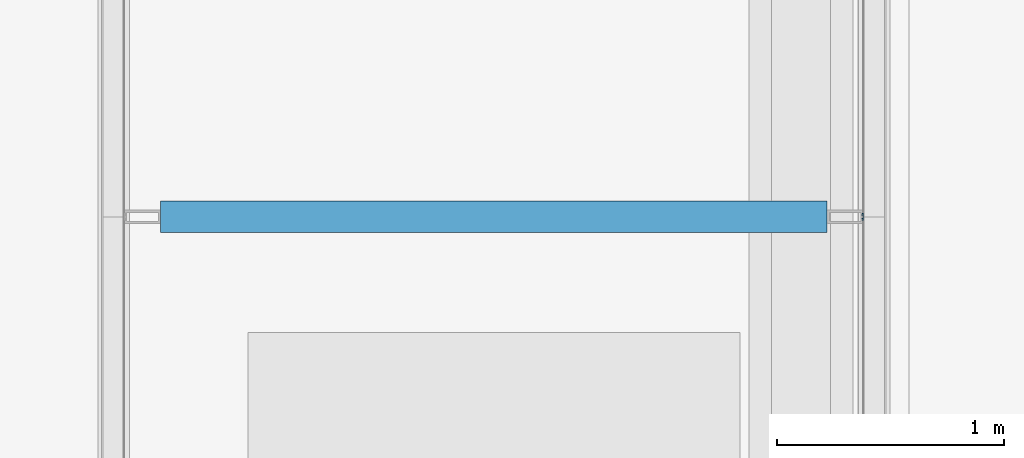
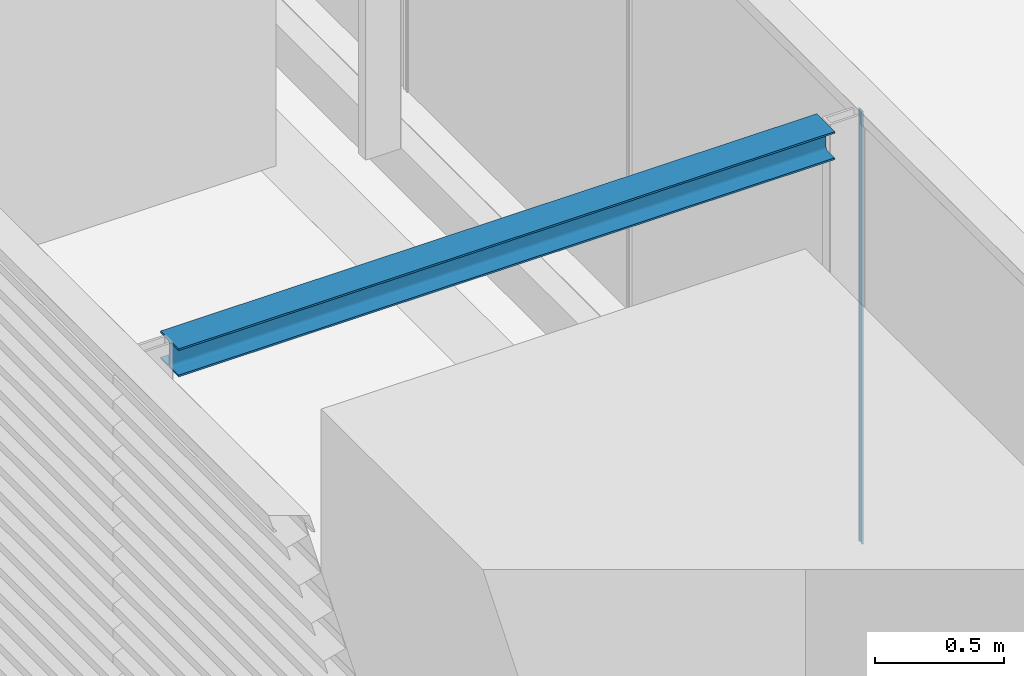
# One storey, part 10 of 32: 1 beam, 1 member, 1 element without a shape of its own.
"""IFC2X3 building model written with IfcOpenShell, lengths in millimetres."""

from ifc_helpers import new_model, entity, si_unit, converted_unit, derived_unit, direction, frame, frame_2d, origin, place, context, subcontext, project, spatial, polyline, circle_curve, parameter, trimmed, segment, composite_curve, i_section, outline, extrude, source, transform, mapped, material, type_object, type_shapes, element, aggregate, save


model = new_model("IFC2X3")

# Units and contexts
model_context = context("Model", 3, precision=0.01, world=origin(), true_north=direction((6.123031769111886e-17, 1.0)))
body_context = subcontext(model_context, "Body", "Model", "MODEL_VIEW")
ifc_project = project(units=[si_unit("LENGTHUNIT", "METRE", prefix="MILLI"), si_unit("AREAUNIT", "SQUARE_METRE"), si_unit("VOLUMEUNIT", "CUBIC_METRE"), converted_unit("PLANEANGLEUNIT", "DEGREE", entity("IfcRatioMeasure", 0.017453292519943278), si_unit("PLANEANGLEUNIT", "RADIAN"), dimensions=[0, 0, 0, 0, 0, 0, 0]), si_unit("MASSUNIT", "GRAM", prefix="KILO"), derived_unit("MASSDENSITYUNIT", [(si_unit("MASSUNIT", "GRAM", prefix="KILO"), 1), (si_unit("LENGTHUNIT", "METRE"), -3)]), derived_unit("IONCONCENTRATIONUNIT", [(si_unit("MASSUNIT", "GRAM", prefix="KILO"), 1), (si_unit("LENGTHUNIT", "METRE"), -3)]), derived_unit("MOMENTOFINERTIAUNIT", [(si_unit("LENGTHUNIT", "METRE"), 4)]), si_unit("TIMEUNIT", "SECOND"), si_unit("FREQUENCYUNIT", "HERTZ"), si_unit("THERMODYNAMICTEMPERATUREUNIT", "DEGREE_CELSIUS"), derived_unit("THERMALTRANSMITTANCEUNIT", [(si_unit("MASSUNIT", "GRAM", prefix="KILO"), 1), (si_unit("THERMODYNAMICTEMPERATUREUNIT", "KELVIN"), -1), (si_unit("TIMEUNIT", "SECOND"), -3)]), derived_unit("THERMALCONDUCTANCEUNIT", [(si_unit("MASSUNIT", "GRAM", prefix="KILO"), 1), (si_unit("THERMODYNAMICTEMPERATUREUNIT", "KELVIN"), -1), (si_unit("TIMEUNIT", "SECOND"), -3), (si_unit("LENGTHUNIT", "METRE"), 1)]), derived_unit("VOLUMETRICFLOWRATEUNIT", [(si_unit("LENGTHUNIT", "METRE"), 3), (si_unit("TIMEUNIT", "SECOND"), -1)]), derived_unit("MASSFLOWRATEUNIT", [(si_unit("MASSUNIT", "GRAM", prefix="KILO"), 1), (si_unit("TIMEUNIT", "SECOND"), -1)]), derived_unit("ROTATIONALFREQUENCYUNIT", [(si_unit("TIMEUNIT", "SECOND"), -1)]), si_unit("ELECTRICCURRENTUNIT", "AMPERE"), si_unit("ELECTRICVOLTAGEUNIT", "VOLT"), si_unit("POWERUNIT", "WATT"), si_unit("FORCEUNIT", "NEWTON", prefix="KILO"), si_unit("ILLUMINANCEUNIT", "LUX"), si_unit("LUMINOUSFLUXUNIT", "LUMEN"), si_unit("LUMINOUSINTENSITYUNIT", "CANDELA"), derived_unit("USERDEFINED", [(si_unit("MASSUNIT", "GRAM", prefix="KILO"), -1), (si_unit("LENGTHUNIT", "METRE"), -2), (si_unit("TIMEUNIT", "SECOND"), 3), (si_unit("LUMINOUSFLUXUNIT", "LUMEN"), 1)]), derived_unit("USERDEFINED", [(si_unit("MASSUNIT", "GRAM", prefix="KILO"), 1), (si_unit("TIMEUNIT", "SECOND"), -3), (si_unit("LENGTHUNIT", "METRE"), 3), (si_unit("ELECTRICCURRENTUNIT", "AMPERE"), -2)]), derived_unit("SOUNDPOWERUNIT", [(si_unit("MASSUNIT", "GRAM", prefix="KILO"), 1), (si_unit("TIMEUNIT", "SECOND"), -3), (si_unit("LENGTHUNIT", "METRE"), 2)]), derived_unit("SOUNDPRESSUREUNIT", [(si_unit("MASSUNIT", "GRAM", prefix="KILO"), 1), (si_unit("LENGTHUNIT", "METRE"), -1), (si_unit("TIMEUNIT", "SECOND"), -2)]), derived_unit("LINEARVELOCITYUNIT", [(si_unit("LENGTHUNIT", "METRE"), 1), (si_unit("TIMEUNIT", "SECOND"), -1)]), si_unit("PRESSUREUNIT", "PASCAL"), derived_unit("USERDEFINED", [(si_unit("MASSUNIT", "GRAM", prefix="KILO"), 1), (si_unit("LENGTHUNIT", "METRE"), -2), (si_unit("TIMEUNIT", "SECOND"), -2)]), derived_unit("LINEARFORCEUNIT", [(si_unit("MASSUNIT", "GRAM", prefix="KILO"), 1), (si_unit("TIMEUNIT", "SECOND"), -2)]), derived_unit("PLANARFORCEUNIT", [(si_unit("MASSUNIT", "GRAM", prefix="KILO"), 1), (si_unit("LENGTHUNIT", "METRE"), -1), (si_unit("TIMEUNIT", "SECOND"), -2)]), derived_unit("SPECIFICHEATCAPACITYUNIT", [(si_unit("THERMODYNAMICTEMPERATUREUNIT", "KELVIN"), -1), (si_unit("LENGTHUNIT", "METRE"), 2), (si_unit("TIMEUNIT", "SECOND"), -2)]), derived_unit("HEATINGVALUEUNIT", [(si_unit("LENGTHUNIT", "METRE"), 2), (si_unit("TIMEUNIT", "SECOND"), -2)]), derived_unit("VAPORPERMEABILITYUNIT", [(si_unit("LENGTHUNIT", "METRE"), -1), (si_unit("TIMEUNIT", "SECOND"), 1)]), derived_unit("DYNAMICVISCOSITYUNIT", [(si_unit("MASSUNIT", "GRAM", prefix="KILO"), 1), (si_unit("TIMEUNIT", "SECOND"), -1), (si_unit("LENGTHUNIT", "METRE"), -1)]), derived_unit("THERMALEXPANSIONCOEFFICIENTUNIT", [(si_unit("THERMODYNAMICTEMPERATUREUNIT", "KELVIN"), -1)]), derived_unit("MODULUSOFELASTICITYUNIT", [(si_unit("MASSUNIT", "GRAM", prefix="KILO"), 1), (si_unit("LENGTHUNIT", "METRE"), -1), (si_unit("TIMEUNIT", "SECOND"), -2)]), derived_unit("ISOTHERMALMOISTURECAPACITYUNIT", [(si_unit("LENGTHUNIT", "METRE"), 3), (si_unit("MASSUNIT", "GRAM", prefix="KILO"), -1)]), derived_unit("MOISTUREDIFFUSIVITYUNIT", [(si_unit("TIMEUNIT", "SECOND"), -1), (si_unit("LENGTHUNIT", "METRE"), 2)])], contexts=[model_context])

# Site, building, storey
site_placement = place(None, frame((0.0, 300.0, 0.0)))
site = spatial("IfcSite", under=ifc_project, at=site_placement, Name="<Kadastrale nummers>", CompositionType="ELEMENT")
building_placement = place(site_placement, origin())
building = spatial("IfcBuilding", under=site, at=building_placement, CompositionType="ELEMENT")
storey_placement = place(building_placement, frame((0.0, 0.0, 7150.000035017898)))
storey = spatial("IfcBuildingStorey", under=building, at=storey_placement, Name="02 tweede verdieping", CompositionType="ELEMENT", Elevation=7150.000035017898)

# Beam
ifc_material_1 = material(Name="h2_staal S235")
beam_type = type_object("IfcBeamType", Name="NLRS_28_SF_LIB_balk hea -SH_gen_ISR:balk gen hea140", PredefinedType="BEAM")
beam_placement = place(storey_placement, frame((39706.99978599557, 35400.0, 2409.9999649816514)))
element("IfcBeam", 1, at=beam_placement, inside=storey, type_object=beam_type, material=ifc_material_1, Name="NLRS_28_SF_LIB_balk hea -SH_gen_ISR:balk gen hea140", ObjectType="NLRS_28_SF_LIB_balk hea -SH_gen_ISR:balk gen hea140", context=body_context, shape_type="SweptSolid", body=[
    extrude(i_section(OverallWidth=140.0000000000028, OverallDepth=133.00000000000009, WebThickness=5.4999999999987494, FlangeThickness=8.500000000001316, FilletRadius=12.000000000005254, at=frame_2d((-1.0800249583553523e-12, -2.1600499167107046e-12), x_axis=(0.0, 1.0))), frame((-1131.9997859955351, 0.0, 66.49999999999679), z_axis=(1.0, 0.0, 0.0), x_axis=(0.0, 0.0, -1.0)), (0.0, 0.0, 1.0), 2939.9999999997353),
])

# Curtain wall, member
curtain_wall_type = type_object("IfcCurtainWallType", Name="Curtain Wall:NLRS_21_CWA_lamellenwand Linius - L.120 met LD.0065_Storax", PredefinedType="NOTDEFINED")
curtain_wall_placement = place(storey_placement, frame((0.0, 0.0, -7150.000035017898)))
curtain_wall = element("IfcCurtainWall", 2, at=curtain_wall_placement, inside=storey, type_object=curtain_wall_type, Name="Curtain Wall:NLRS_21_CWA_lamellenwand Linius - L.120 met LD.0065_Storax", ObjectType="Curtain Wall:NLRS_21_CWA_lamellenwand Linius - L.120 met LD.0065_Storax")
ifc_material_2 = material(Name="STAAL_RAL 7006")
member_type = type_object("IfcMemberType", Name="Rectangular Mullion:NLRS_21_CWM_drager LD.0065_Storax", PredefinedType="MULLION", material=ifc_material_2)
shared_shape = source(origin(), body_context, "Body", "SweptSolid", [
    extrude(outline(composite_curve([segment(polyline([(-1.4234637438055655, -14.998975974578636), (3.696834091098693, -14.998975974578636)]), True, "CONTINUOUS"), segment(polyline([(3.696834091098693, -14.998975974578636), (3.696834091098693, 15.001024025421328)]), True, "CONTINUOUS"), segment(polyline([(3.696834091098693, 15.001024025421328), (-1.4234637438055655, 15.001024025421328)]), True, "CONTINUOUS"), segment(trimmed(circle_curve(frame_2d((-1.4234637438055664, 14.001024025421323), x_axis=(0.0, 1.0)), 1.0000000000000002), [parameter(0.0)], [parameter(241.34010185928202)], True, "PARAMETER"), True, "CONTINUOUS"), segment(polyline([(-0.5459816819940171, 13.521414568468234), (2.196834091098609, 13.521414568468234)]), True, "CONTINUOUS"), segment(polyline([(2.196834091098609, 13.521414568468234), (2.196834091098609, 9.648596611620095)]), True, "CONTINUOUS"), segment(polyline([(2.196834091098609, 9.648596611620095), (-2.803165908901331, 9.648596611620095)]), True, "CONTINUOUS"), segment(polyline([(-2.803165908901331, 9.648596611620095), (-2.803165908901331, 7.8879641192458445)]), True, "CONTINUOUS"), segment(polyline([(-2.803165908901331, 7.8879641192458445), (-1.6031201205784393, 7.8879641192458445)]), True, "CONTINUOUS"), segment(polyline([(-1.6031201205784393, 7.8879641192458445), (-1.6031201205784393, 6.348596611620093)]), True, "CONTINUOUS"), segment(polyline([(-1.6031201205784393, 6.348596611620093), (0.2473405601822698, 6.348596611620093)]), True, "CONTINUOUS"), segment(polyline([(0.2473405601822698, 6.348596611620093), (0.2473405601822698, 7.88796411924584)]), True, "CONTINUOUS"), segment(polyline([(0.2473405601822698, 7.88796411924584), (2.1968340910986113, 7.88796411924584)]), True, "CONTINUOUS"), segment(polyline([(2.1968340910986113, 7.88796411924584), (2.1968340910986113, -7.885916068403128)]), True, "CONTINUOUS"), segment(polyline([(2.1968340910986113, -7.885916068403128), (0.2473405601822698, -7.885916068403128)]), True, "CONTINUOUS"), segment(polyline([(0.2473405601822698, -7.885916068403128), (0.2473405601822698, -6.358836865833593)]), True, "CONTINUOUS"), segment(polyline([(0.2473405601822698, -6.358836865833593), (-1.6031201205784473, -6.358836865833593)]), True, "CONTINUOUS"), segment(polyline([(-1.6031201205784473, -6.358836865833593), (-1.6031201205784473, -7.885916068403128)]), True, "CONTINUOUS"), segment(polyline([(-1.6031201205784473, -7.885916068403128), (-2.803165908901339, -7.885916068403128)]), True, "CONTINUOUS"), segment(polyline([(-2.803165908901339, -7.885916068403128), (-2.803165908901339, -9.646548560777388)]), True, "CONTINUOUS"), segment(polyline([(-2.803165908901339, -9.646548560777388), (2.1968340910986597, -9.646548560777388)]), True, "CONTINUOUS"), segment(polyline([(2.1968340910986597, -9.646548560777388), (2.1968340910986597, -13.519366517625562)]), True, "CONTINUOUS"), segment(polyline([(2.1968340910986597, -13.519366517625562), (-0.5459816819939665, -13.519366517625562)]), True, "CONTINUOUS"), segment(trimmed(circle_curve(frame_2d((-1.4234637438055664, -13.998975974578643), x_axis=(0.8774820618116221, 0.4796094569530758)), 1.0000000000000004), [parameter(0.0)], [parameter(241.34010185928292)], True, "PARAMETER"), True, "CONTINUOUS")], self_intersect=False)), frame((-0.0010240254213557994, 4.696834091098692, -2049.999964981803), z_axis=(0.0, 0.0, 1.0), x_axis=(0.0, -1.0, 0.0)), (0.0, 0.0, 1.0), 2049.999964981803),
])
type_shapes(member_type, [shared_shape])
member_placement = place(curtain_wall_placement, frame((41676.0, 35400.0, 7650.000035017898), z_axis=(0.0, 0.0, -1.0), x_axis=(0.0, -1.0, 0.0)))
member = element("IfcMember", 3, at=member_placement, type_object=member_type, material=ifc_material_2, Name="Rectangular Mullion:NLRS_21_CWM_drager LD.0065_Storax", ObjectType="Rectangular Mullion:NLRS_21_CWM_drager LD.0065_Storax", context=body_context, shape_type="MappedRepresentation", body=[
    mapped(shared_shape, transform((0.0, 0.0, 0.0), scale=1.0)),
])
aggregate(curtain_wall, [member])

save(model, "model.ifc")
